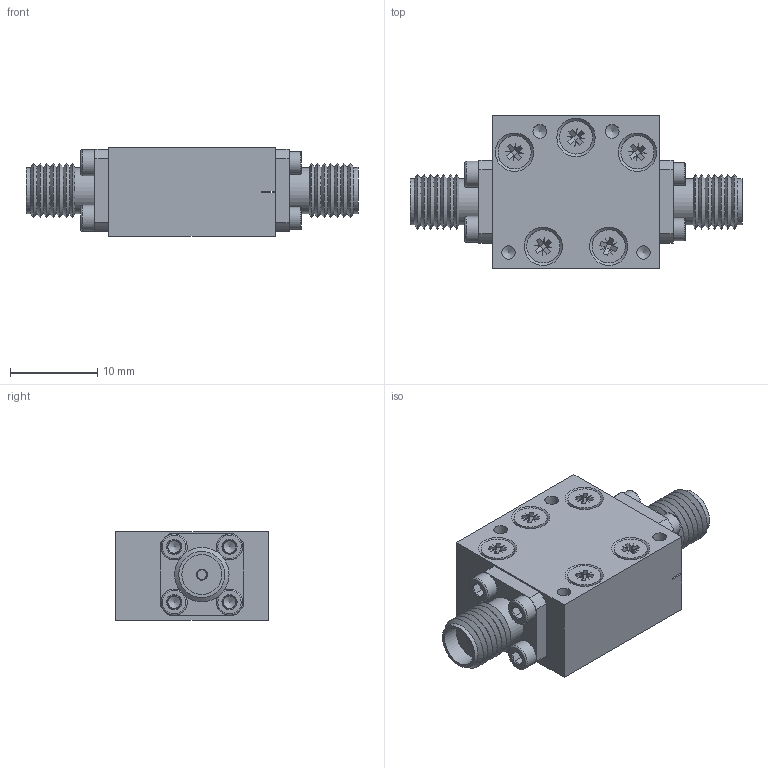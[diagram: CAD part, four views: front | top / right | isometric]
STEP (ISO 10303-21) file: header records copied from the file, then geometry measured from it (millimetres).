
FILE_DESCRIPTION(/* description */ ('Unknown'),/* implementation_level */ '2;1');
FILE_NAME(/* name */ 'DETI_MICROWAVE_HIGHPASS_FILTER_800021_STEP',/* time_stamp */ '2021-06-01T16:28:49+02:00',/* author */ ('ALG'),/* organization */ ('DETI'),/* preprocessor_version */ 'ST-DEVELOPER v16.7',/* originating_system */ 'Solid Edge',/* authorisation */ 'Unknown');
FILE_SCHEMA (('AUTOMOTIVE_DESIGN {1 0 10303 214 3 1 1}'));
Length unit declared in the file: millimetre
Products named in the file (1): 800021 1601A2
Bounding box: 38.1 x 17.5 x 10.2 mm (x, y, z)
Volume: 3830.8 mm3; surface area: 3311.6 mm2
Topology: 1 solids, 17 shells, 469 faces, 1202 edges, 786 vertices
Faces by surface type: plane 307, cylinder 88, cone 57, torus 17
Full cylindrical faces by diameter (mm): 1.075 x6, 1.1 x2, 1.27 x4, 1.4 x4, 1.567 x13, 1.6 x4, 1.8 x8, 2 x5, 2.2 x5, 2.6 x4, 3 x4, 3.8 x5, 4.1 x2, 4.6 x2, 5.3 x4
Entity records: 16074 total; most frequent: CARTESIAN_POINT 2312, DIRECTION 2104, ORIENTED_EDGE 1958, EDGE_CURVE 979, VERTEX_POINT 721, AXIS2_PLACEMENT_3D 707, LINE 690, VECTOR 690
